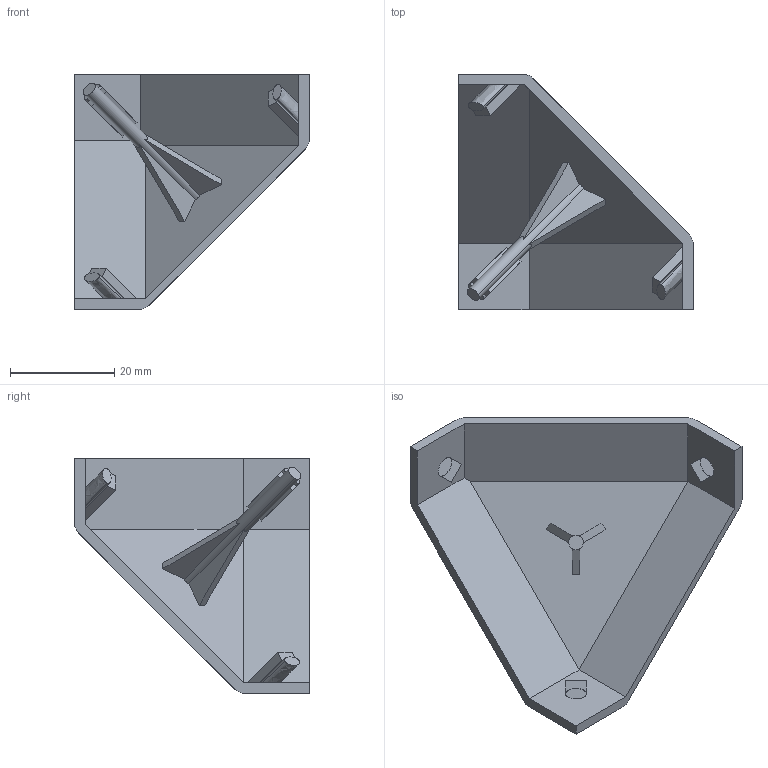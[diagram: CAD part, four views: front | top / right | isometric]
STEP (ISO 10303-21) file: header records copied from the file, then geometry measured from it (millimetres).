
FILE_DESCRIPTION (( 'STEP AP214' ), '1' );
FILE_NAME ('084.310.016.STEP', '2021-02-05T10:51:42', ( '' ), ( '' ), 'SwSTEP 2.0', 'SolidWorks 2018', '' );
FILE_SCHEMA (( 'AUTOMOTIVE_DESIGN' ));
Length unit declared in the file: millimetre
Products named in the file (1): 084.310.016
Bounding box: 45 x 45 x 45 mm (x, y, z)
Volume: 6232.4 mm3; surface area: 7423.7 mm2
Topology: 1 solids, 1 shells, 74 faces, 185 edges, 116 vertices
Faces by surface type: plane 48, cylinder 14, bspline 6, sphere 6
Entity records: 2359 total; most frequent: CARTESIAN_POINT 640, ORIENTED_EDGE 368, DIRECTION 320, EDGE_CURVE 184, LINE 124, VECTOR 124, VERTEX_POINT 116, AXIS2_PLACEMENT_3D 98
